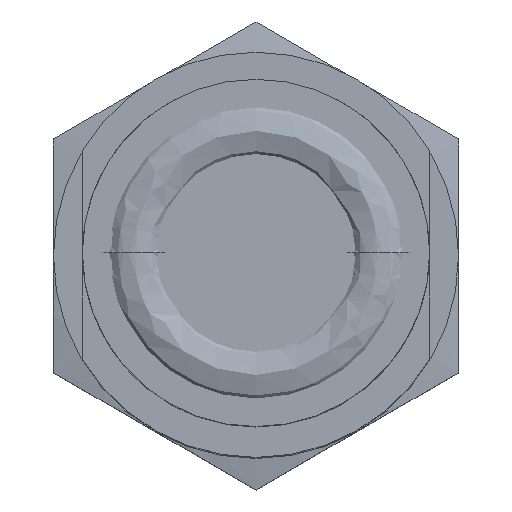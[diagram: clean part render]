
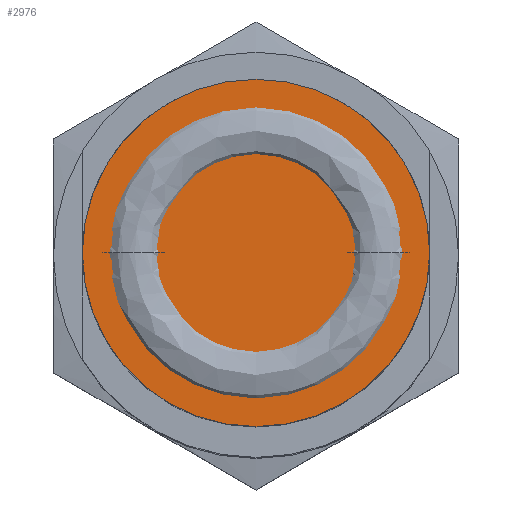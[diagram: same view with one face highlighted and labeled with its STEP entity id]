
A CAD part, top view. The second image highlights one B-rep face of the part: STEP entity #2976.
In plain terms, the highlighted planar face has unit normal (0, 0, 1).
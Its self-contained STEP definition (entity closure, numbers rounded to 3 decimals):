
#54 = EDGE_CURVE ( 'NONE', #2898, #4822, #3494, .T. ) ;
#1066 = AXIS2_PLACEMENT_3D ( 'NONE', #2815, #1131, #2416 ) ;
#1131 = DIRECTION ( 'NONE',  ( 0., 0., 1. ) ) ;
#1142 = EDGE_CURVE ( 'NONE', #4822, #2898, #4110, .T. ) ;
#1276 = DIRECTION ( 'NONE',  ( 1., 0., 0. ) ) ;
#1915 = ORIENTED_EDGE ( 'NONE', *, *, #1142, .T. ) ;
#2168 = CARTESIAN_POINT ( 'NONE',  ( 6., 0., 0. ) ) ;
#2416 = DIRECTION ( 'NONE',  ( 1., 0., 0. ) ) ;
#2572 = CARTESIAN_POINT ( 'NONE',  ( 0., 0., 0. ) ) ;
#2750 = EDGE_LOOP ( 'NONE', ( #1915, #3895 ) ) ;
#2771 = DIRECTION ( 'NONE',  ( 0., 0., 1. ) ) ;
#2815 = CARTESIAN_POINT ( 'NONE',  ( 0., 0., 0. ) ) ;
#2898 = VERTEX_POINT ( 'NONE', #3352 ) ;
#2976 = ADVANCED_FACE ( 'NONE', ( #3314 ), #4219, .T. ) ;
#3220 = CARTESIAN_POINT ( 'NONE',  ( 0., 0., 0. ) ) ;
#3314 = FACE_OUTER_BOUND ( 'NONE', #2750, .T. ) ;
#3352 = CARTESIAN_POINT ( 'NONE',  ( -6., 0., 0. ) ) ;
#3494 = CIRCLE ( 'NONE', #4759, 6. ) ;
#3895 = ORIENTED_EDGE ( 'NONE', *, *, #54, .T. ) ;
#4110 = CIRCLE ( 'NONE', #1066, 6. ) ;
#4219 = PLANE ( 'NONE',  #4300 ) ;
#4300 = AXIS2_PLACEMENT_3D ( 'NONE', #2572, #5085, #1276 ) ;
#4759 = AXIS2_PLACEMENT_3D ( 'NONE', #3220, #2771, #5240 ) ;
#4822 = VERTEX_POINT ( 'NONE', #2168 ) ;
#5085 = DIRECTION ( 'NONE',  ( 0., 0., 1. ) ) ;
#5240 = DIRECTION ( 'NONE',  ( 1., 0., 0. ) ) ;
